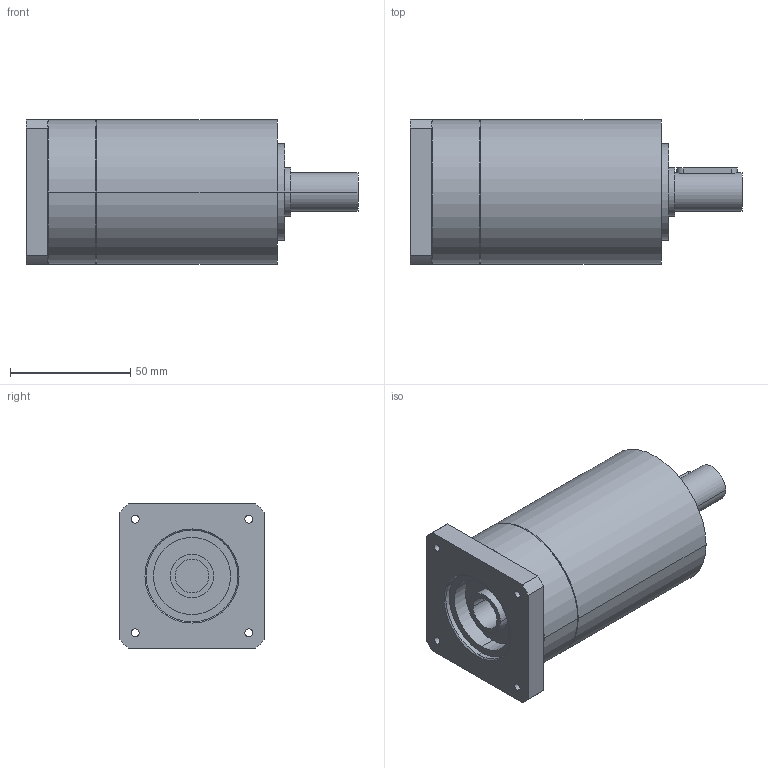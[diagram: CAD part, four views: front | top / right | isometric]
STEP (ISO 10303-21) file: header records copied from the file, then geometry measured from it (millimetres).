
FILE_DESCRIPTION(('CoCreate Modeling STEP Export'),'2;1');
FILE_NAME('GPR75_ig-9-12-16-20-24-30-36_16_B14_14_P28.stp','2014-08-25T16:03:38',(''),(''),'CoCreate Modeling STEP processor for AP214 (Solid Model)','CoCreate Modeling 16.00C 25-Feb-2009 (C) Parametric Technology GmbH','');
FILE_SCHEMA(('AUTOMOTIVE_DESIGN { 1 0 10303 214 1 1 1 1 }'));
Length unit declared in the file: millimetre
Products named in the file (2): GPR75_ig-9-12-16-20-24-30-36_16_B14_14_P28
Assembly tree (1 placements, depth 2):
  GPR75_ig-9-12-16-20-24-30-36_16_B14_14_P28
    GPR75_ig-9-12-16-20-24-30-36_16_B14_14_P28
Bounding box: 137.9 x 60 x 60 mm (x, y, z)
Volume: 299729 mm3; surface area: 32981.1 mm2
Topology: 1 solids, 1 shells, 72 faces, 190 edges, 132 vertices
Faces by surface type: cylinder 42, plane 22, cone 8
Entity records: 1969 total; most frequent: ORIENTED_EDGE 376, CARTESIAN_POINT 364, DIRECTION 268, EDGE_CURVE 188, VERTEX_POINT 132, AXIS2_PLACEMENT_3D 100, EDGE_LOOP 94, FACE_OUTER_BOUND 72
